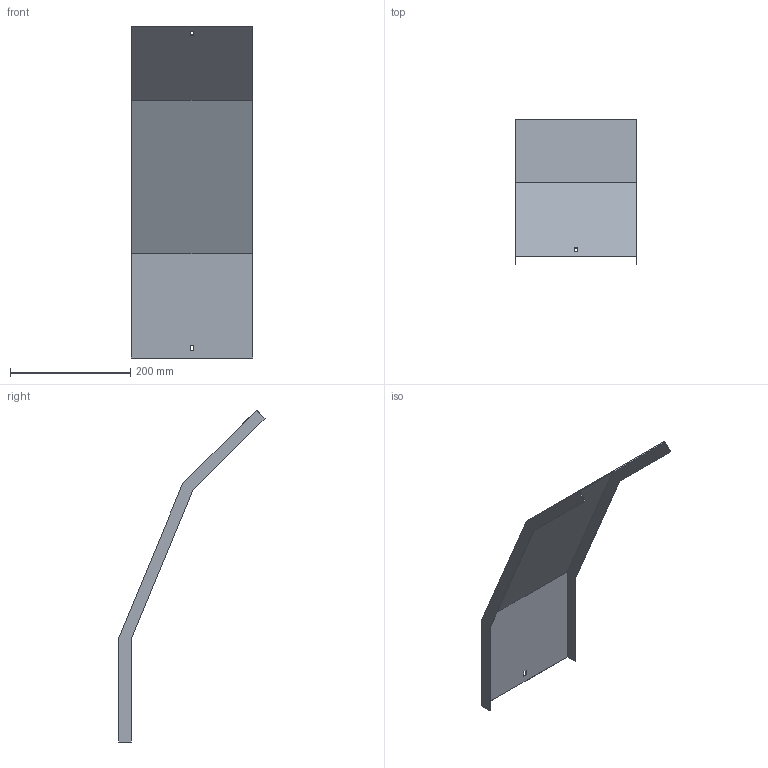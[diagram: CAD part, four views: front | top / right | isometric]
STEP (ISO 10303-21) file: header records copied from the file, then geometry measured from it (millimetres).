
FILE_DESCRIPTION (( 'STEP AP214' ), '1' );
FILE_NAME ('A2_34N3D200.step', '2025-02-21T10:34:44', ( '' ), ( '' ), 'SwSTEP 2.0', 'SolidWorks 2023', '' );
FILE_SCHEMA (( 'AUTOMOTIVE_DESIGN' ));
Length unit declared in the file: millimetre
Products named in the file (1): A2_34N3D200
Bounding box: 203 x 243.15 x 552.87 mm (x, y, z)
Volume: 224136.8 mm3; surface area: 301490.8 mm2
Topology: 1 solids, 1 shells, 26 faces, 72 edges, 48 vertices
Faces by surface type: plane 26
Entity records: 847 total; most frequent: CARTESIAN_POINT 147, ORIENTED_EDGE 144, DIRECTION 126, VECTOR 72, EDGE_CURVE 72, LINE 72, VERTEX_POINT 48, EDGE_LOOP 30
